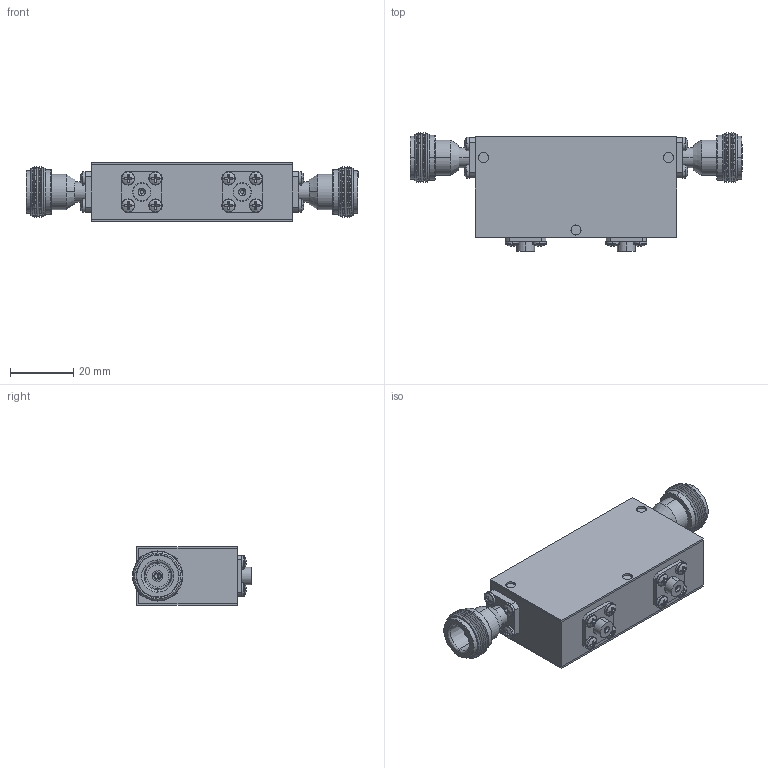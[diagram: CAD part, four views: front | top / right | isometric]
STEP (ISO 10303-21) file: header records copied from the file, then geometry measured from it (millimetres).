
FILE_DESCRIPTION (( 'STEP AP214' ), '1' );
FILE_NAME ('Package 13 Iso FF Type-N.step', '2021-12-01T20:57:37', ( '' ), ( '' ), 'SwSTEP 2.0', 'SolidWorks 2016', '' );
FILE_SCHEMA (( 'AUTOMOTIVE_DESIGN' ));
Length unit declared in the file: inch
Products named in the file (6): Package 13 Iso FF Type-N; 030013-1A; Package 13; Type-N Female 0.500 flange; pan cross head_ai_CR-PHMS 0.086-56x0.125x0.125-N; Package Size 13
Assembly tree (22 placements, depth 2):
  Package 13 Iso FF Type-N
    Package 13
    030013-1A  x2
    pan cross head_ai_CR-PHMS 0.086-56x0.125x0.125-N  x16
    Type-N Female 0.500 flange  x2
    Package Size 13
Bounding box: 104.85 x 37.51 x 18.54 mm (x, y, z)
Volume: 41852.2 mm3; surface area: 23476.2 mm2
Topology: 22 solids, 22 shells, 708 faces, 1610 edges, 986 vertices
Faces by surface type: plane 346, cylinder 194, cone 96, torus 36, sphere 32, bspline 4
Entity records: 6527 total; most frequent: DIRECTION 1179, CARTESIAN_POINT 1136, ORIENTED_EDGE 978, EDGE_CURVE 489, AXIS2_PLACEMENT_3D 478, VERTEX_POINT 307, EDGE_LOOP 252, CIRCLE 248
